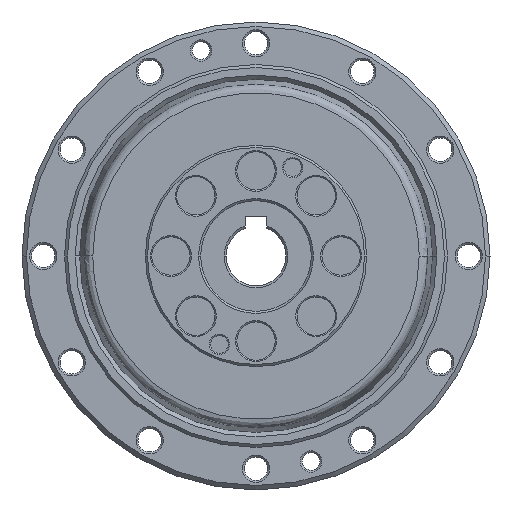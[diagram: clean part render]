
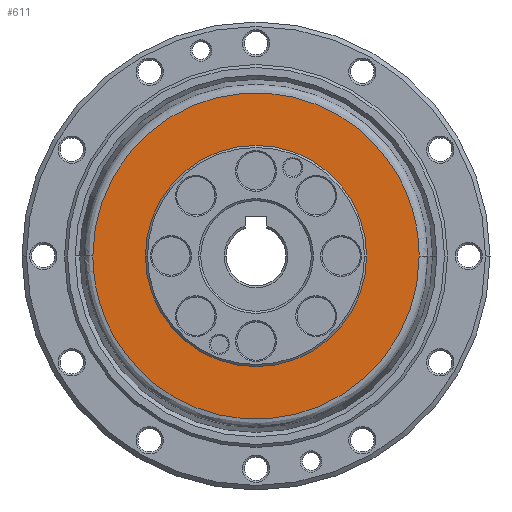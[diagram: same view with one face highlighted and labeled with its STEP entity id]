
A CAD part, left-side view. The second image highlights one B-rep face of the part: STEP entity #611.
In plain terms, the highlighted planar face has unit normal (-1, 0, 0).
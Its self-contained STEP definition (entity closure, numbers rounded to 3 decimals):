
#611=ADVANCED_FACE('NONE',(#1325,#1326),#1327,.F.);
#1325=FACE_OUTER_BOUND('',#2245,.T.);
#1326=FACE_BOUND('',#2246,.T.);
#1327=PLANE('',#2247);
#2245=EDGE_LOOP('',(#3914,#3915));
#2246=EDGE_LOOP('',(#3916,#3917));
#2247=AXIS2_PLACEMENT_3D('',#3918,#3919,#3920);
#3914=ORIENTED_EDGE('',*,*,#4802,.F.);
#3915=ORIENTED_EDGE('',*,*,#5404,.F.);
#3916=ORIENTED_EDGE('',*,*,#5001,.F.);
#3917=ORIENTED_EDGE('',*,*,#5396,.F.);
#3918=CARTESIAN_POINT('',(-39.3,0.0,-38.35));
#3919=DIRECTION('',(1.0,0.0,0.0));
#3920=DIRECTION('',(0.0,1.0,0.0));
#4802=EDGE_CURVE('NONE',#5653,#5654,#5655,.T.);
#5001=EDGE_CURVE('NONE',#5976,#5977,#5978,.T.);
#5396=EDGE_CURVE('NONE',#5977,#5976,#6567,.T.);
#5404=EDGE_CURVE('NONE',#5654,#5653,#6578,.T.);
#5653=VERTEX_POINT('NONE',#6967);
#5654=VERTEX_POINT('NONE',#6968);
#5655=(B_SPLINE_CURVE(3,(#6970,#6971,#6972,#6973),.UNSPECIFIED.,.F.,.F.)B_SPLINE_CURVE_WITH_KNOTS((4,4),(0.75,1.25),.UNSPECIFIED.)RATIONAL_B_SPLINE_CURVE((1.0,0.333,0.333,1.0))BOUNDED_CURVE()REPRESENTATION_ITEM('')GEOMETRIC_REPRESENTATION_ITEM()CURVE());
#5976=VERTEX_POINT('NONE',#7403);
#5977=VERTEX_POINT('NONE',#7404);
#5978=CIRCLE('',#7405,26.0);
#6567=CIRCLE('',#8237,26.0);
#6578=(B_SPLINE_CURVE(3,(#8252,#8253,#8254,#8255),.UNSPECIFIED.,.F.,.F.)B_SPLINE_CURVE_WITH_KNOTS((4,4),(0.25,0.75),.UNSPECIFIED.)RATIONAL_B_SPLINE_CURVE((1.0,0.333,0.333,1.0))BOUNDED_CURVE()REPRESENTATION_ITEM('')GEOMETRIC_REPRESENTATION_ITEM()CURVE());
#6967=CARTESIAN_POINT('',(-39.3,-38.35,0.));
#6968=CARTESIAN_POINT('',(-39.3,38.35,0.));
#6970=CARTESIAN_POINT('',(-39.3,-38.35,0.));
#6971=CARTESIAN_POINT('',(-39.3,-38.35,-76.7));
#6972=CARTESIAN_POINT('',(-39.3,38.35,-76.7));
#6973=CARTESIAN_POINT('',(-39.3,38.35,0.));
#7403=CARTESIAN_POINT('',(-39.3,-26.0,0.0));
#7404=CARTESIAN_POINT('',(-39.3,26.0,0.));
#7405=AXIS2_PLACEMENT_3D('',#8863,#8864,#8865);
#8237=AXIS2_PLACEMENT_3D('',#9472,#9473,#9474);
#8252=CARTESIAN_POINT('',(-39.3,38.35,0.));
#8253=CARTESIAN_POINT('',(-39.3,38.35,76.7));
#8254=CARTESIAN_POINT('',(-39.3,-38.35,76.7));
#8255=CARTESIAN_POINT('',(-39.3,-38.35,0.));
#8863=CARTESIAN_POINT('',(-39.3,0.0,0.0));
#8864=DIRECTION('',(-1.0,0.0,0.0));
#8865=DIRECTION('',(0.0,-1.0,0.0));
#9472=CARTESIAN_POINT('',(-39.3,0.0,0.0));
#9473=DIRECTION('',(-1.0,0.0,0.0));
#9474=DIRECTION('',(0.0,-1.0,0.0));
